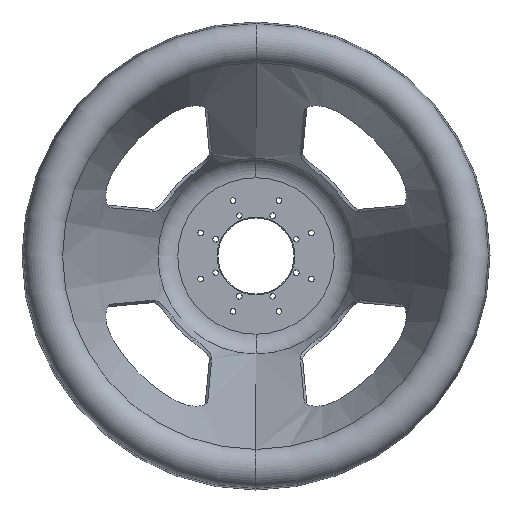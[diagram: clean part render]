
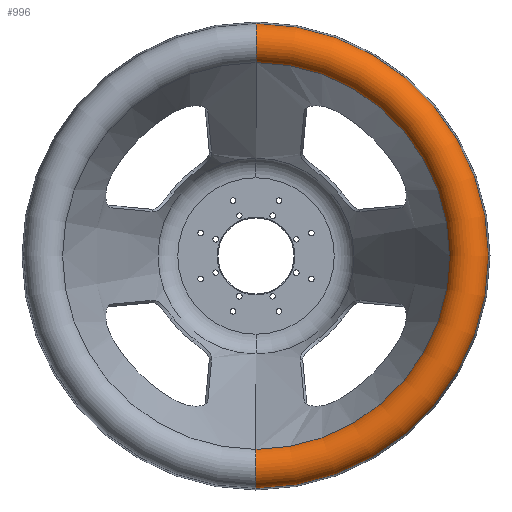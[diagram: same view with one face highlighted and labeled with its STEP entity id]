
A CAD part, front view. The second image highlights one B-rep face of the part: STEP entity #996.
In plain terms, the highlighted toroidal (fillet/blend) face has major radius 247.942 mm and minor radius 23.6 mm.
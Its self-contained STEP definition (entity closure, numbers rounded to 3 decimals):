
#476=CARTESIAN_POINT('Vertex',(0.,-315.241,226.061)) ;
#483=CARTESIAN_POINT('Vertex',(0.,-315.241,-226.061)) ;
#486=CARTESIAN_POINT('Axis2P3D Location',(0.,-315.241,0.)) ;
#966=CARTESIAN_POINT('Axis2P3D Location',(0.,-306.4,0.)) ;
#971=CARTESIAN_POINT('Axis2P3D Location',(0.,-306.4,247.942)) ;
#975=CARTESIAN_POINT('Vertex',(0.,-307.224,271.528)) ;
#978=CARTESIAN_POINT('Axis2P3D Location',(0.,-306.4,-247.942)) ;
#982=CARTESIAN_POINT('Vertex',(0.,-307.224,-271.528)) ;
#985=CARTESIAN_POINT('Axis2P3D Location',(0.,-307.224,0.)) ;
#487=DIRECTION('Axis2P3D Direction',(0.,-1.,0.)) ;
#967=DIRECTION('Axis2P3D Direction',(0.,-1.,0.)) ;
#968=DIRECTION('Axis2P3D XDirection',(0.,0.,1.)) ;
#972=DIRECTION('Axis2P3D Direction',(1.,0.,0.)) ;
#979=DIRECTION('Axis2P3D Direction',(-1.,0.,0.)) ;
#986=DIRECTION('Axis2P3D Direction',(0.,-1.,0.)) ;
#488=AXIS2_PLACEMENT_3D('Circle Axis2P3D',#486,#487,$) ;
#969=AXIS2_PLACEMENT_3D('Torus Axis2P3D',#966,#967,#968) ;
#973=AXIS2_PLACEMENT_3D('Circle Axis2P3D',#971,#972,$) ;
#980=AXIS2_PLACEMENT_3D('Circle Axis2P3D',#978,#979,$) ;
#987=AXIS2_PLACEMENT_3D('Circle Axis2P3D',#985,#986,$) ;
#991=ORIENTED_EDGE('',*,*,#977,.T.) ;
#992=ORIENTED_EDGE('',*,*,#490,.F.) ;
#993=ORIENTED_EDGE('',*,*,#984,.F.) ;
#994=ORIENTED_EDGE('',*,*,#989,.T.) ;
#996=ADVANCED_FACE('Corps principal',(#995),#970,.T.) ;
#489=CIRCLE('generated circle',#488,226.061) ;
#974=CIRCLE('generated circle',#973,23.6) ;
#981=CIRCLE('generated circle',#980,23.6) ;
#988=CIRCLE('generated circle',#987,271.528) ;
#970=TOROIDAL_SURFACE('homeo Torus',#969,247.942,23.6) ;
#490=EDGE_CURVE('',#484,#477,#489,.T.) ;
#977=EDGE_CURVE('',#976,#477,#974,.T.) ;
#984=EDGE_CURVE('',#983,#484,#981,.T.) ;
#989=EDGE_CURVE('',#983,#976,#988,.T.) ;
#990=EDGE_LOOP('',(#991,#992,#993,#994)) ;
#995=FACE_OUTER_BOUND('',#990,.T.) ;
#477=VERTEX_POINT('',#476) ;
#484=VERTEX_POINT('',#483) ;
#976=VERTEX_POINT('',#975) ;
#983=VERTEX_POINT('',#982) ;
